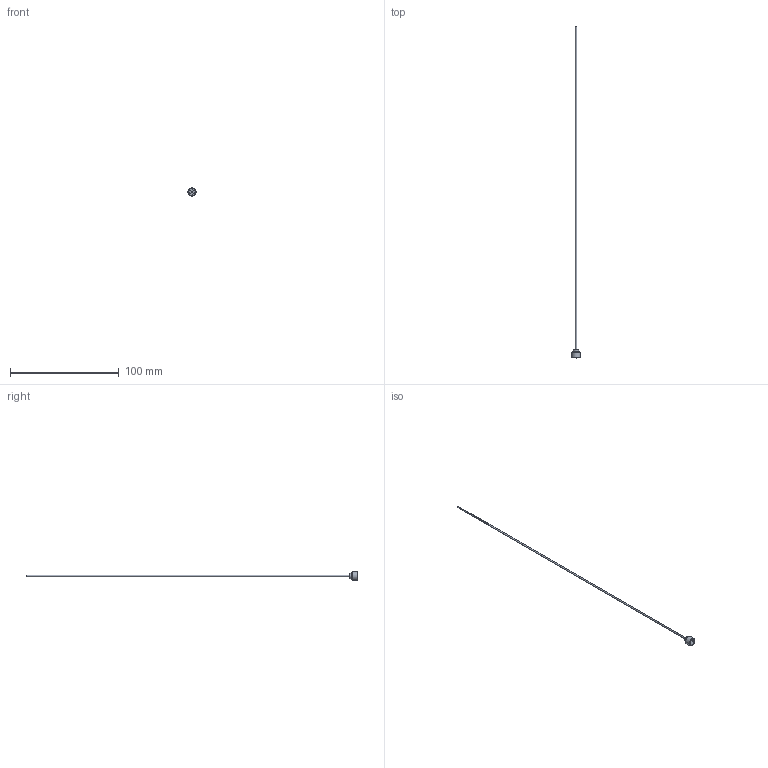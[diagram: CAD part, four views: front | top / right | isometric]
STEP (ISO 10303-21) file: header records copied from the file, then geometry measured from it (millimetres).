
FILE_DESCRIPTION(/* description */ (''),/* implementation_level */ '2;1');
FILE_NAME(/* name */ 'C:/Users/drich/Desktop/cad/Cascades/Jet Cool/Components/Inner Tubes/PT16-050/PT16-050-12 v1.step',/* time_stamp */ '2020-01-10T15:10:00-06:00',/* author */ (''),/* organization */ (''),/* preprocessor_version */ 'ST-DEVELOPER v18',/* originating_system */ 'Autodesk Translation Framework v8.12.0.6',/* authorisation */ '');
FILE_SCHEMA (('AUTOMOTIVE_DESIGN { 1 0 10303 214 3 1 1 }'));
Length unit declared in the file: inch
Products named in the file (1): PT16-050-12
Bounding box: 7.62 x 304.8 x 7.62 mm (x, y, z)
Volume: 353.1 mm3; surface area: 2485.5 mm2
Topology: 1 solids, 1 shells, 19 faces, 48 edges, 34 vertices
Faces by surface type: plane 11, cylinder 4, torus 2, cone 2
Full cylindrical faces by diameter (mm): 1.067 x1, 1.27 x1, 4.724 x1, 7.616 x1
Entity records: 633 total; most frequent: DIRECTION 112, CARTESIAN_POINT 102, ORIENTED_EDGE 96, EDGE_CURVE 48, AXIS2_PLACEMENT_3D 44, VERTEX_POINT 34, CIRCLE 24, EDGE_LOOP 24
